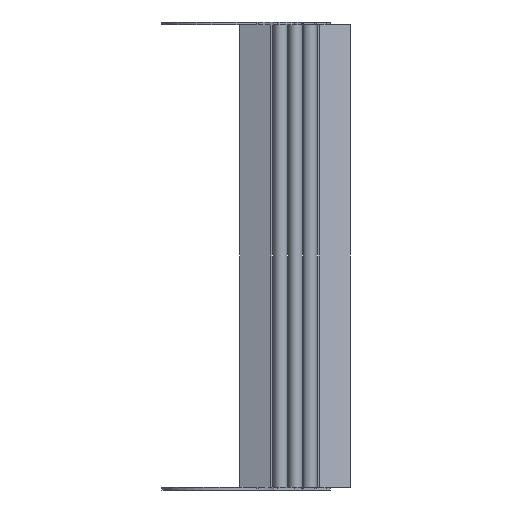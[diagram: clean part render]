
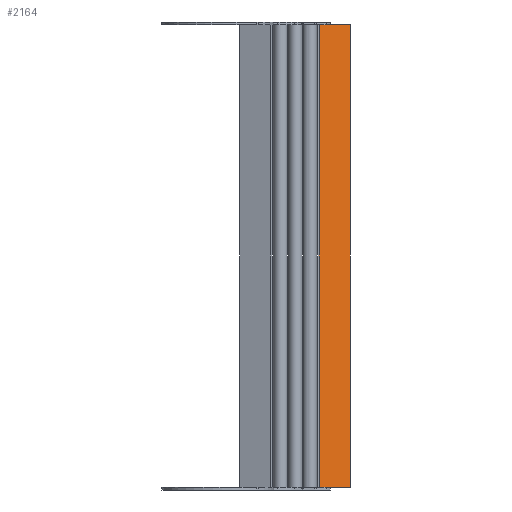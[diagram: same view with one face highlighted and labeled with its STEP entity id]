
A CAD part, front view. The second image highlights one B-rep face of the part: STEP entity #2164.
In plain terms, the highlighted planar face has unit normal (0.342, -0.94, 0).
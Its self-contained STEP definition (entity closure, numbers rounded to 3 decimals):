
#75 = EDGE_LOOP ( 'NONE', ( #5500, #998, #5549, #1733, #6454, #4642 ) ) ;
#126 = DIRECTION ( 'NONE',  ( 0., 0., 1. ) ) ;
#309 = LINE ( 'NONE', #7040, #4516 ) ;
#435 = CARTESIAN_POINT ( 'NONE',  ( 108.255, 61.65, 0. ) ) ;
#668 = DIRECTION ( 'NONE',  ( 0., 0., 1. ) ) ;
#708 = LINE ( 'NONE', #1167, #4734 ) ;
#724 = VERTEX_POINT ( 'NONE', #4098 ) ;
#905 = LINE ( 'NONE', #435, #2957 ) ;
#962 = VERTEX_POINT ( 'NONE', #5426 ) ;
#980 = DIRECTION ( 'NONE',  ( -0.94, -0.342, 0. ) ) ;
#998 = ORIENTED_EDGE ( 'NONE', *, *, #3899, .T. ) ;
#1167 = CARTESIAN_POINT ( 'NONE',  ( 108.255, 61.65, -494. ) ) ;
#1249 = CARTESIAN_POINT ( 'NONE',  ( 108.255, 61.65, -494. ) ) ;
#1733 = ORIENTED_EDGE ( 'NONE', *, *, #4177, .F. ) ;
#2045 = EDGE_CURVE ( 'NONE', #5805, #2290, #5049, .T. ) ;
#2096 = DIRECTION ( 'NONE',  ( -0.94, -0.342, 0. ) ) ;
#2164 = ADVANCED_FACE ( 'NONE', ( #4611 ), #4029, .F. ) ;
#2290 = VERTEX_POINT ( 'NONE', #4178 ) ;
#2634 = AXIS2_PLACEMENT_3D ( 'NONE', #1249, #5666, #2906 ) ;
#2742 = CARTESIAN_POINT ( 'NONE',  ( 141.6, 73.787, -494. ) ) ;
#2906 = DIRECTION ( 'NONE',  ( -0.94, -0.342, 0. ) ) ;
#2957 = VECTOR ( 'NONE', #980, 1000. ) ;
#3138 = EDGE_CURVE ( 'NONE', #3984, #4331, #708, .T. ) ;
#3403 = CARTESIAN_POINT ( 'NONE',  ( 141.6, 73.787, -494. ) ) ;
#3579 = VECTOR ( 'NONE', #126, 1000. ) ;
#3899 = EDGE_CURVE ( 'NONE', #962, #4331, #905, .T. ) ;
#3961 = VECTOR ( 'NONE', #2096, 1000. ) ;
#3984 = VERTEX_POINT ( 'NONE', #4418 ) ;
#4029 = PLANE ( 'NONE',  #2634 ) ;
#4098 = CARTESIAN_POINT ( 'NONE',  ( 114.569, 63.948, -494. ) ) ;
#4177 = EDGE_CURVE ( 'NONE', #724, #3984, #6764, .T. ) ;
#4178 = CARTESIAN_POINT ( 'NONE',  ( 141.6, 73.787, 0. ) ) ;
#4331 = VERTEX_POINT ( 'NONE', #5990 ) ;
#4418 = CARTESIAN_POINT ( 'NONE',  ( 108.255, 61.65, -494. ) ) ;
#4516 = VECTOR ( 'NONE', #5398, 1000. ) ;
#4611 = FACE_OUTER_BOUND ( 'NONE', #75, .T. ) ;
#4642 = ORIENTED_EDGE ( 'NONE', *, *, #2045, .T. ) ;
#4734 = VECTOR ( 'NONE', #668, 1000. ) ;
#4772 = CARTESIAN_POINT ( 'NONE',  ( 108.255, 61.65, -494. ) ) ;
#5049 = LINE ( 'NONE', #3403, #3579 ) ;
#5398 = DIRECTION ( 'NONE',  ( -0.94, -0.342, 0. ) ) ;
#5426 = CARTESIAN_POINT ( 'NONE',  ( 114.569, 63.948, 0. ) ) ;
#5436 = LINE ( 'NONE', #7128, #3961 ) ;
#5500 = ORIENTED_EDGE ( 'NONE', *, *, #5573, .T. ) ;
#5549 = ORIENTED_EDGE ( 'NONE', *, *, #3138, .F. ) ;
#5573 = EDGE_CURVE ( 'NONE', #2290, #962, #309, .T. ) ;
#5666 = DIRECTION ( 'NONE',  ( -0.342, 0.94, 0. ) ) ;
#5803 = VECTOR ( 'NONE', #6441, 1000. ) ;
#5805 = VERTEX_POINT ( 'NONE', #2742 ) ;
#5990 = CARTESIAN_POINT ( 'NONE',  ( 108.255, 61.65, 0. ) ) ;
#6441 = DIRECTION ( 'NONE',  ( -0.94, -0.342, 0. ) ) ;
#6454 = ORIENTED_EDGE ( 'NONE', *, *, #6789, .F. ) ;
#6764 = LINE ( 'NONE', #4772, #5803 ) ;
#6789 = EDGE_CURVE ( 'NONE', #5805, #724, #5436, .T. ) ;
#7040 = CARTESIAN_POINT ( 'NONE',  ( 108.255, 61.65, 0. ) ) ;
#7128 = CARTESIAN_POINT ( 'NONE',  ( 108.255, 61.65, -494. ) ) ;
